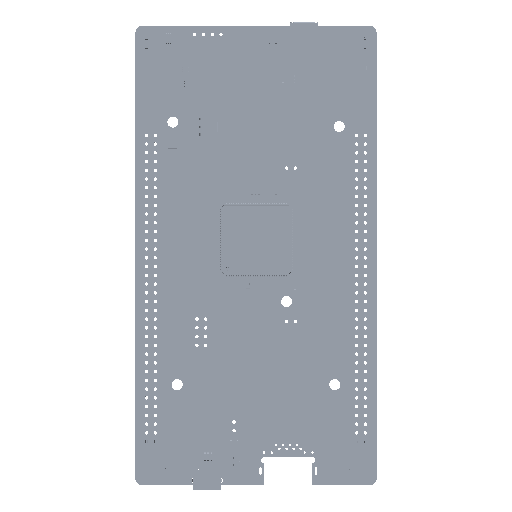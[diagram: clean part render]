
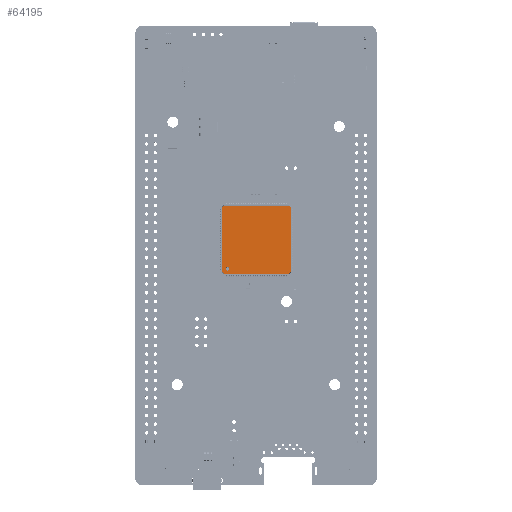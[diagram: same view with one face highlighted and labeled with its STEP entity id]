
A CAD part, top view. The second image highlights one B-rep face of the part: STEP entity #64195.
In plain terms, the highlighted planar face has unit normal (0, 0, 1) as drawn and (0, 1, 0) by its records, which use the part's own axes.
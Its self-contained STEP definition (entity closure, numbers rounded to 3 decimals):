
#52444 = VERTEX_POINT('',#52445);
#52445 = CARTESIAN_POINT('',(6.248,0.625,-17.674));
#52451 = EDGE_CURVE('',#52452,#52444,#52454,.T.);
#52452 = VERTEX_POINT('',#52453);
#52453 = CARTESIAN_POINT('',(6.248,0.625,-18.679));
#52454 = CIRCLE('',#52455,0.503);
#52455 = AXIS2_PLACEMENT_3D('',#52456,#52457,#52458);
#52456 = CARTESIAN_POINT('',(6.248,0.625,-18.176));
#52457 = DIRECTION('',(0.,1.,0.));
#52458 = DIRECTION('',(0.,-0.,1.));
#63067 = EDGE_CURVE('',#63068,#63070,#63072,.T.);
#63068 = VERTEX_POINT('',#63069);
#63069 = CARTESIAN_POINT('',(7.767,0.625,-0.342));
#63070 = VERTEX_POINT('',#63071);
#63071 = CARTESIAN_POINT('',(7.767,0.625,-19.117));
#63072 = LINE('',#63073,#63074);
#63073 = CARTESIAN_POINT('',(7.767,0.625,0.278));
#63074 = VECTOR('',#63075,1.);
#63075 = DIRECTION('',(-0.,-0.,-1.));
#63352 = VERTEX_POINT('',#63353);
#63353 = CARTESIAN_POINT('',(-11.532,0.625,-19.625));
#63359 = EDGE_CURVE('',#63360,#63352,#63362,.T.);
#63360 = VERTEX_POINT('',#63361);
#63361 = CARTESIAN_POINT('',(7.243,0.625,-19.625));
#63362 = LINE('',#63363,#63364);
#63363 = CARTESIAN_POINT('',(7.864,0.625,-19.625));
#63364 = VECTOR('',#63365,1.);
#63365 = DIRECTION('',(-1.,-0.,-0.));
#63635 = VERTEX_POINT('',#63636);
#63636 = CARTESIAN_POINT('',(-12.039,0.625,-0.326));
#63642 = EDGE_CURVE('',#63643,#63635,#63645,.T.);
#63643 = VERTEX_POINT('',#63644);
#63644 = CARTESIAN_POINT('',(-12.039,0.625,-19.101));
#63645 = LINE('',#63646,#63647);
#63646 = CARTESIAN_POINT('',(-12.039,0.625,0.278));
#63647 = VECTOR('',#63648,1.);
#63648 = DIRECTION('',(-0.,-0.,1.));
#63918 = VERTEX_POINT('',#63919);
#63919 = CARTESIAN_POINT('',(7.259,0.625,0.181));
#63925 = EDGE_CURVE('',#63926,#63918,#63928,.T.);
#63926 = VERTEX_POINT('',#63927);
#63927 = CARTESIAN_POINT('',(-11.516,0.625,0.181));
#63928 = LINE('',#63929,#63930);
#63929 = CARTESIAN_POINT('',(7.864,0.625,0.181));
#63930 = VECTOR('',#63931,1.);
#63931 = DIRECTION('',(1.,-0.,-0.));
#64195 = ADVANCED_FACE('',(#64196,#64206),#64236,.T.);
#64196 = FACE_BOUND('',#64197,.T.);
#64197 = EDGE_LOOP('',(#64198,#64205));
#64198 = ORIENTED_EDGE('',*,*,#64199,.F.);
#64199 = EDGE_CURVE('',#52444,#52452,#64200,.T.);
#64200 = CIRCLE('',#64201,0.503);
#64201 = AXIS2_PLACEMENT_3D('',#64202,#64203,#64204);
#64202 = CARTESIAN_POINT('',(6.248,0.625,-18.176));
#64203 = DIRECTION('',(0.,1.,0.));
#64204 = DIRECTION('',(0.,-0.,1.));
#64205 = ORIENTED_EDGE('',*,*,#52451,.F.);
#64206 = FACE_BOUND('',#64207,.T.);
#64207 = EDGE_LOOP('',(#64208,#64209,#64215,#64216,#64222,#64223,#64229,
    #64230));
#64208 = ORIENTED_EDGE('',*,*,#63925,.T.);
#64209 = ORIENTED_EDGE('',*,*,#64210,.T.);
#64210 = EDGE_CURVE('',#63918,#63068,#64211,.T.);
#64211 = LINE('',#64212,#64213);
#64212 = CARTESIAN_POINT('',(3.833,0.625,3.716));
#64213 = VECTOR('',#64214,1.);
#64214 = DIRECTION('',(0.696,-0.,-0.718));
#64215 = ORIENTED_EDGE('',*,*,#63067,.T.);
#64216 = ORIENTED_EDGE('',*,*,#64217,.T.);
#64217 = EDGE_CURVE('',#63070,#63360,#64218,.T.);
#64218 = LINE('',#64219,#64220);
#64219 = CARTESIAN_POINT('',(13.317,0.625,-13.737));
#64220 = VECTOR('',#64221,1.);
#64221 = DIRECTION('',(-0.718,-0.,-0.696));
#64222 = ORIENTED_EDGE('',*,*,#63359,.T.);
#64223 = ORIENTED_EDGE('',*,*,#64224,.T.);
#64224 = EDGE_CURVE('',#63352,#63643,#64225,.T.);
#64225 = LINE('',#64226,#64227);
#64226 = CARTESIAN_POINT('',(-15.753,0.625,-15.271));
#64227 = VECTOR('',#64228,1.);
#64228 = DIRECTION('',(-0.696,-0.,0.718));
#64229 = ORIENTED_EDGE('',*,*,#63642,.T.);
#64230 = ORIENTED_EDGE('',*,*,#64231,.T.);
#64231 = EDGE_CURVE('',#63635,#63926,#64232,.T.);
#64232 = LINE('',#64233,#64234);
#64233 = CARTESIAN_POINT('',(-5.67,0.625,5.849));
#64234 = VECTOR('',#64235,1.);
#64235 = DIRECTION('',(0.718,-0.,0.696));
#64236 = PLANE('',#64237);
#64237 = AXIS2_PLACEMENT_3D('',#64238,#64239,#64240);
#64238 = CARTESIAN_POINT('',(0.,0.625,0.));
#64239 = DIRECTION('',(0.,1.,0.));
#64240 = DIRECTION('',(0.,-0.,1.));
